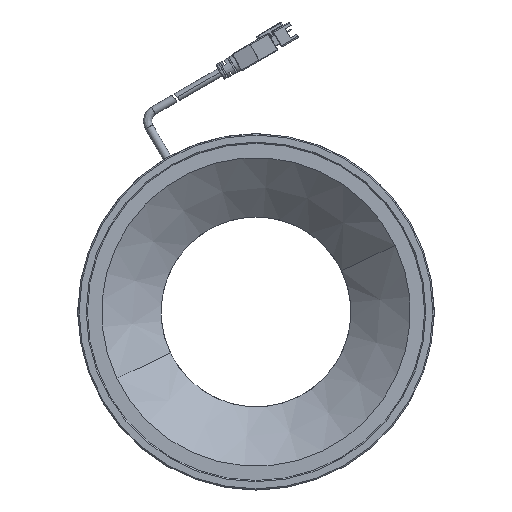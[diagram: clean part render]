
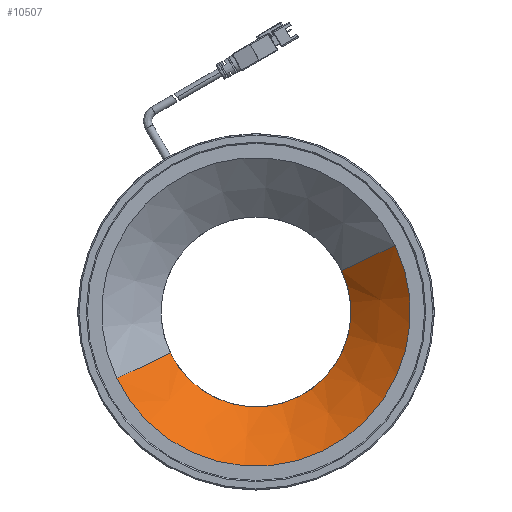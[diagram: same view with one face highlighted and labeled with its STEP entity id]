
A CAD part, left-side view. The second image highlights one B-rep face of the part: STEP entity #10507.
In plain terms, the highlighted conical face has half-angle 50 degrees and reference radius 40 mm.
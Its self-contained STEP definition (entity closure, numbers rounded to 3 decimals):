
#770 = CARTESIAN_POINT ( 'NONE',  ( -17.523, -36.068, 17.294 ) ) ;
#902 = FACE_OUTER_BOUND ( 'NONE', #5751, .T. ) ;
#1076 = CARTESIAN_POINT ( 'NONE',  ( -38.5, 0., 0. ) ) ;
#1543 = CARTESIAN_POINT ( 'NONE',  ( -38.5, 58.611, -28.103 ) ) ;
#2266 = DIRECTION ( 'NONE',  ( -0.643, -0.691, 0.331 ) ) ;
#3508 = AXIS2_PLACEMENT_3D ( 'NONE', #5380, #9231, #11656 ) ;
#3633 = VERTEX_POINT ( 'NONE', #5462 ) ;
#3922 = ORIENTED_EDGE ( 'NONE', *, *, #9299, .T. ) ;
#4305 = DIRECTION ( 'NONE',  ( 0., 0.902, -0.432 ) ) ;
#4409 = CARTESIAN_POINT ( 'NONE',  ( -38.5, -58.611, 28.103 ) ) ;
#4606 = CIRCLE ( 'NONE', #9240, 65. ) ;
#4761 = AXIS2_PLACEMENT_3D ( 'NONE', #16220, #8168, #4305 ) ;
#5326 = LINE ( 'NONE', #13279, #16328 ) ;
#5365 = CARTESIAN_POINT ( 'NONE',  ( -17.523, -36.068, 17.294 ) ) ;
#5380 = CARTESIAN_POINT ( 'NONE',  ( -17.523, 0., 0. ) ) ;
#5462 = CARTESIAN_POINT ( 'NONE',  ( -17.523, 36.068, -17.294 ) ) ;
#5493 = ORIENTED_EDGE ( 'NONE', *, *, #15013, .T. ) ;
#5655 = CIRCLE ( 'NONE', #4761, 40. ) ;
#5751 = EDGE_LOOP ( 'NONE', ( #3922, #5493, #13030, #14692 ) ) ;
#5775 = VERTEX_POINT ( 'NONE', #4409 ) ;
#6590 = LINE ( 'NONE', #770, #6802 ) ;
#6802 = VECTOR ( 'NONE', #2266, 1000. ) ;
#8168 = DIRECTION ( 'NONE',  ( 1., 0., 0. ) ) ;
#8954 = DIRECTION ( 'NONE',  ( 0., 0.902, -0.432 ) ) ;
#9231 = DIRECTION ( 'NONE',  ( -1., 0., 0. ) ) ;
#9240 = AXIS2_PLACEMENT_3D ( 'NONE', #1076, #15510, #8954 ) ;
#9299 = EDGE_CURVE ( 'NONE', #16308, #3633, #5655, .T. ) ;
#9701 = VERTEX_POINT ( 'NONE', #1543 ) ;
#9937 = EDGE_CURVE ( 'NONE', #16308, #5775, #6590, .T. ) ;
#10507 = ADVANCED_FACE ( 'NONE', ( #902 ), #13950, .F. ) ;
#10821 = DIRECTION ( 'NONE',  ( -0.643, 0.691, -0.331 ) ) ;
#11656 = DIRECTION ( 'NONE',  ( 0., -0.902, 0.432 ) ) ;
#13030 = ORIENTED_EDGE ( 'NONE', *, *, #13444, .F. ) ;
#13279 = CARTESIAN_POINT ( 'NONE',  ( -17.523, 36.068, -17.294 ) ) ;
#13444 = EDGE_CURVE ( 'NONE', #5775, #9701, #4606, .T. ) ;
#13950 = CONICAL_SURFACE ( 'NONE', #3508, 40., 0.873 ) ;
#14692 = ORIENTED_EDGE ( 'NONE', *, *, #9937, .F. ) ;
#15013 = EDGE_CURVE ( 'NONE', #3633, #9701, #5326, .T. ) ;
#15510 = DIRECTION ( 'NONE',  ( 1., 0., 0. ) ) ;
#16220 = CARTESIAN_POINT ( 'NONE',  ( -17.523, 0., 0. ) ) ;
#16308 = VERTEX_POINT ( 'NONE', #5365 ) ;
#16328 = VECTOR ( 'NONE', #10821, 1000. ) ;
